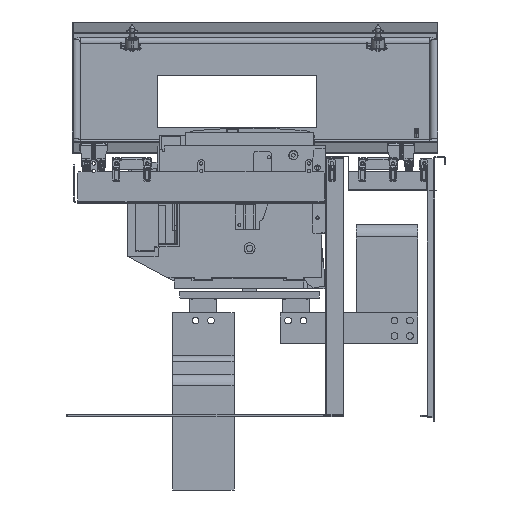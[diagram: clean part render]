
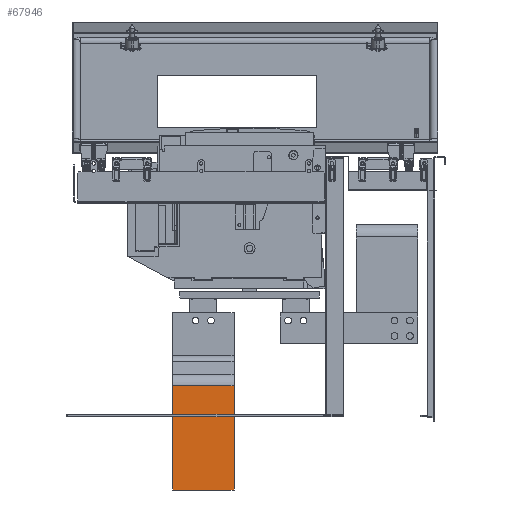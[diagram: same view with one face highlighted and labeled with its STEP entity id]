
A CAD part, left-side view. The second image highlights one B-rep face of the part: STEP entity #67946.
In plain terms, the highlighted planar face has unit normal (-1, 0, 0).
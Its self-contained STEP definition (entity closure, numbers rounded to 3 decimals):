
#66646=CARTESIAN_POINT(' ',(-68.75,50.,-118.783));
#66651=DIRECTION(' ',(0.,0.,-1.));
#66656=VECTOR(' ',#66651,1.);
#66661=LINE('',#66646,#66656);
#66666=CARTESIAN_POINT(' ',(-68.75,50.,-118.783));
#66667=VERTEX_POINT(' ',#66666);
#66671=CARTESIAN_POINT(' ',(-68.75,50.,-288.));
#66672=VERTEX_POINT(' ',#66671);
#66676=EDGE_CURVE(' ',#66667,#66672,#66661,.T.);
#67236=CARTESIAN_POINT(' ',(-68.75,-50.,-118.783));
#67237=VERTEX_POINT(' ',#67236);
#67251=CARTESIAN_POINT(' ',(-68.75,-50.,-118.783));
#67256=DIRECTION(' ',(0.,0.,-1.));
#67261=VECTOR(' ',#67256,1.);
#67266=LINE('',#67251,#67261);
#67271=CARTESIAN_POINT(' ',(-68.75,-50.,-288.));
#67272=VERTEX_POINT(' ',#67271);
#67276=EDGE_CURVE(' ',#67237,#67272,#67266,.T.);
#67841=DIRECTION(' ',(-1.,-0.,-0.));
#67846=CARTESIAN_POINT(' ',(-68.75,-50.,-118.783));
#67851=DIRECTION(' ',(-0.,1.,0.));
#67856=AXIS2_PLACEMENT_3D(' ',#67846,#67841,#67851);
#67861=PLANE('NONE',#67856);
#67866=ORIENTED_EDGE(' ',*,*,#67276,.F.);
#67871=CARTESIAN_POINT(' ',(-68.75,-50.,-118.783));
#67876=DIRECTION(' ',(0.,1.,0.));
#67881=VECTOR(' ',#67876,1.);
#67886=LINE('',#67871,#67881);
#67891=EDGE_CURVE(' ',#67237,#66667,#67886,.T.);
#67896=ORIENTED_EDGE(' ',*,*,#67891,.T.);
#67901=ORIENTED_EDGE(' ',*,*,#66676,.T.);
#67906=CARTESIAN_POINT(' ',(-68.75,50.,-288.));
#67911=DIRECTION(' ',(0.,-1.,0.));
#67916=VECTOR(' ',#67911,1.);
#67921=LINE('',#67906,#67916);
#67926=EDGE_CURVE(' ',#66672,#67272,#67921,.T.);
#67931=ORIENTED_EDGE(' ',*,*,#67926,.T.);
#67936=EDGE_LOOP(' ',(#67866,#67896,#67901,#67931));
#67941=FACE_OUTER_BOUND(' ',#67936,.T.);
#67946=ADVANCED_FACE('NONE',(#67941),#67861,.T.);
